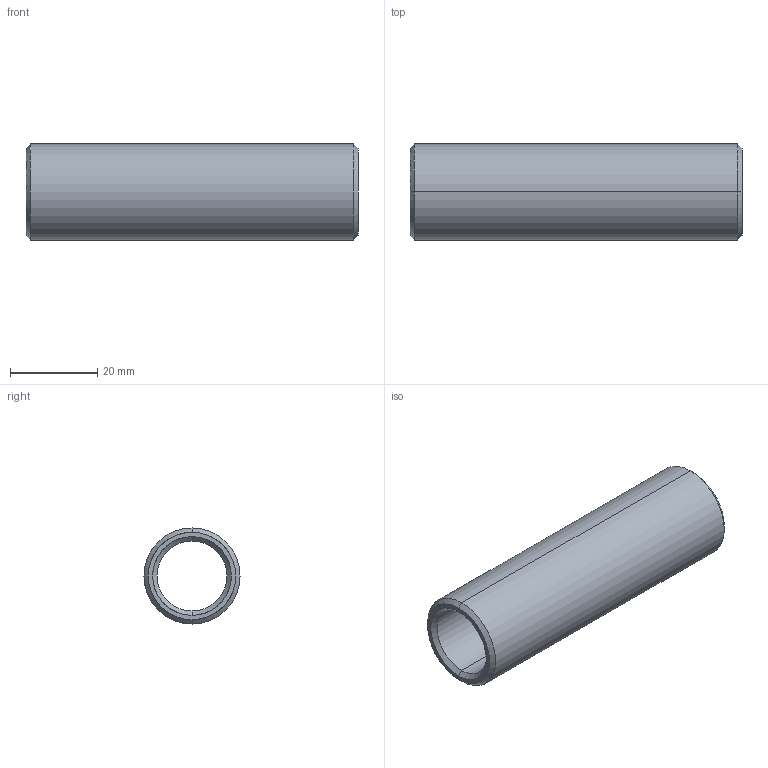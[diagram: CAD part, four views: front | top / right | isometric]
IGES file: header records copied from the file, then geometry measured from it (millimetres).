
Start section: START RECORD GO HERE.
Global section: file name: 352-16X76.igs; native system: DASSAULT SYSTEMES CATIA V5 R20 - www.3ds.com; preprocessor: CATIA Version 5 Release 20 ; author: Utente; organization: NB04-ASUS; date: 20210410.110246; units: millimetre
Bounding box: 76 x 22 x 22 mm (x, y, z)
Surface area: 9298.2 mm2 (no closed solid volume)
Topology: 0 solids, 0 shells, 14 faces, 88 edges, 88 vertices
Faces by surface type: revolution 12, plane 2
